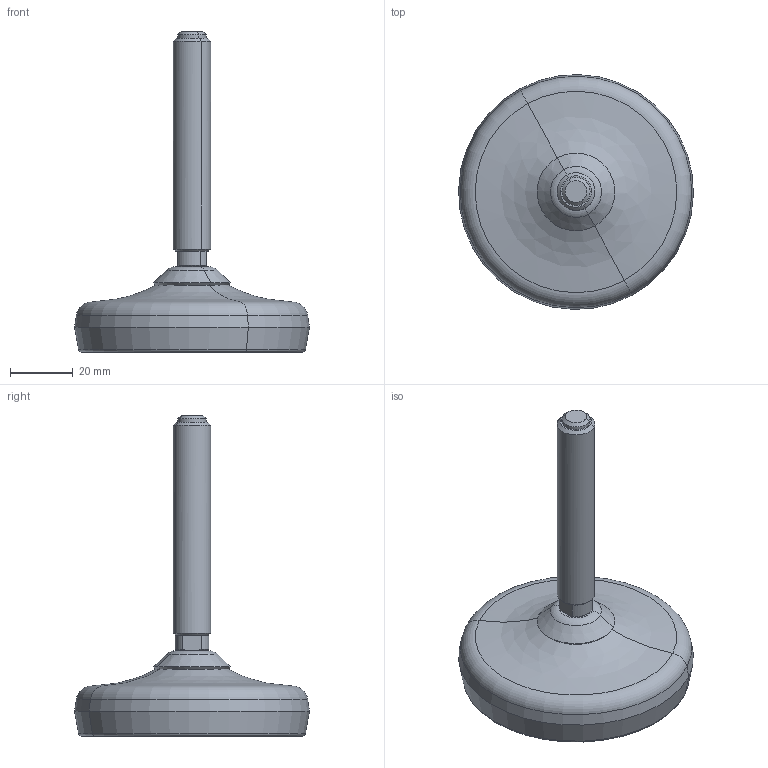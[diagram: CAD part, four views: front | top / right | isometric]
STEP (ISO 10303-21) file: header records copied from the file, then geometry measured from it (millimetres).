
FILE_DESCRIPTION(('STEP AP214'),'1');
FILE_NAME('P92202_01','2017-01-24T17:00:52',('dentellad'),(' '),'Spatial InterOp 3D',' ',' ');
FILE_SCHEMA(('automotive_design'));
Length unit declared in the file: millimetre
Products named in the file (4): 1; 2; 3; 4
Bounding box: 74.98 x 74.98 x 102.27 mm (x, y, z)
Volume: 83146 mm3; surface area: 27809 mm2
Topology: 4 solids, 4 shells, 102 faces, 209 edges, 126 vertices
Faces by surface type: cone 37, plane 23, cylinder 18, torus 18, revolution 6
Entity records: 4742 total; most frequent: CARTESIAN_POINT 587, DIRECTION 535, ORIENTED_EDGE 418, STYLED_ITEM 306, PRESENTATION_STYLE_ASSIGNMENT 306, COLOUR_RGB 306, AXIS2_PLACEMENT_3D 234, EDGE_CURVE 209
